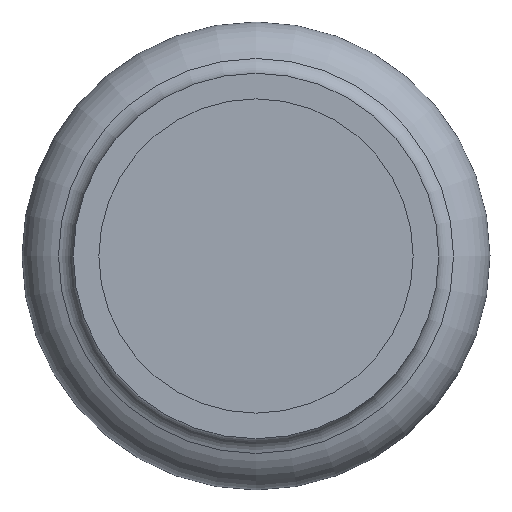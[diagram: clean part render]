
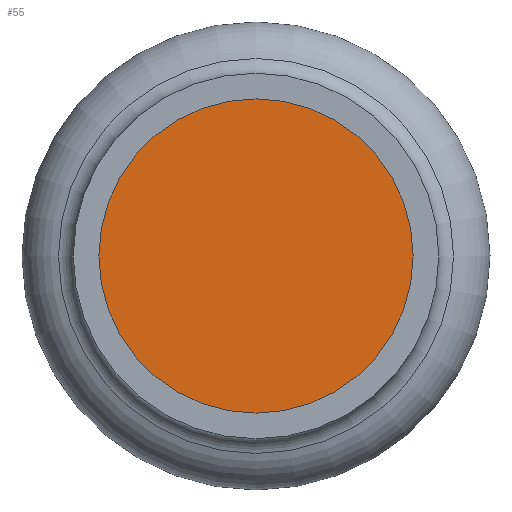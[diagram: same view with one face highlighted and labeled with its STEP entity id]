
A CAD part, front view. The second image highlights one B-rep face of the part: STEP entity #55.
In plain terms, the highlighted planar face has unit normal (0, -1, 0).
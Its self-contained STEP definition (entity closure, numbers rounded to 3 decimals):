
#55=ADVANCED_FACE('',(#90),#92,.T.);
#90=FACE_BOUND('',#91,.T.);
#91=EDGE_LOOP('',(#243));
#92=PLANE('',#93);
#93=AXIS2_PLACEMENT_3D('',#94,#95,#96);
#94=CARTESIAN_POINT('',(0.,-23.854,0.));
#95=DIRECTION('',(0.,-1.,0.));
#96=DIRECTION('',(0.,0.,1.));
#243=ORIENTED_EDGE('',*,*,#277,.T.);
#277=EDGE_CURVE('',#297,#297,#298,.F.);
#297=VERTEX_POINT('',#339);
#298=CIRCLE('',#340,7.65);
#339=CARTESIAN_POINT('',(0.,-23.854,7.65));
#340=AXIS2_PLACEMENT_3D('',#341,#342,#343);
#341=CARTESIAN_POINT('',(0.,-23.854,0.));
#342=DIRECTION('',(0.,1.,0.));
#343=DIRECTION('',(0.,0.,1.));
